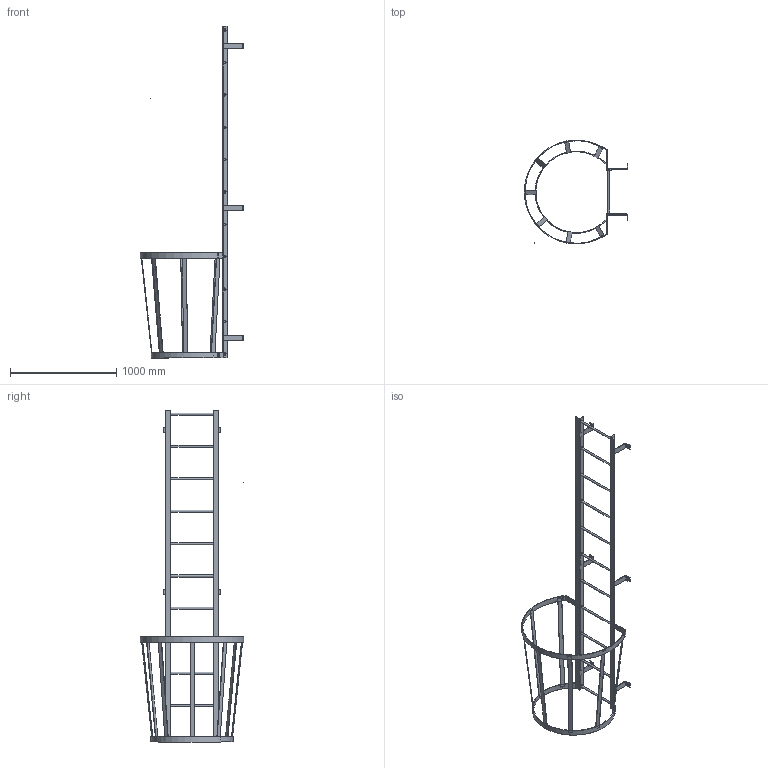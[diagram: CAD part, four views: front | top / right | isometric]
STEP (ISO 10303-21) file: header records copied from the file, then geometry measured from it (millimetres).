
FILE_DESCRIPTION(/* description */ (''),/* implementation_level */ '2;1');
FILE_NAME(/* name */ 'P:\MIKEL & KAREN\3570240 F11SC SIMPLIFIED PART.stp',/* time_stamp */ '2018-07-03T08:43:10-04:00',/* author */ ('stephanie'),/* organization */ (''),/* preprocessor_version */ 'ST-DEVELOPER v16.1',/* originating_system */ 'Autodesk Inventor 2016',/* authorisation */ '');
FILE_SCHEMA (('AUTOMOTIVE_DESIGN { 1 0 10303 214 3 1 1 }'));
Length unit declared in the file: centimetre
Products named in the file (1): 3570240 F11SC SIMPLIFIED PART
Bounding box: 973.36 x 977.88 x 3124.2 mm (x, y, z)
Volume: 8225770.2 mm3; surface area: 2718316.8 mm2
Topology: 13 solids, 13 shells, 263 faces, 783 edges, 522 vertices
Faces by surface type: plane 178, cylinder 85
Full cylindrical faces by diameter (mm): 0.254 x1, 14.287 x6, 19.05 x11, 22.225 x22
Entity records: 8790 total; most frequent: DIRECTION 1463, CARTESIAN_POINT 1452, ORIENTED_EDGE 1402, EDGE_CURVE 701, AXIS2_PLACEMENT_3D 498, VERTEX_POINT 487, LINE 467, VECTOR 467
